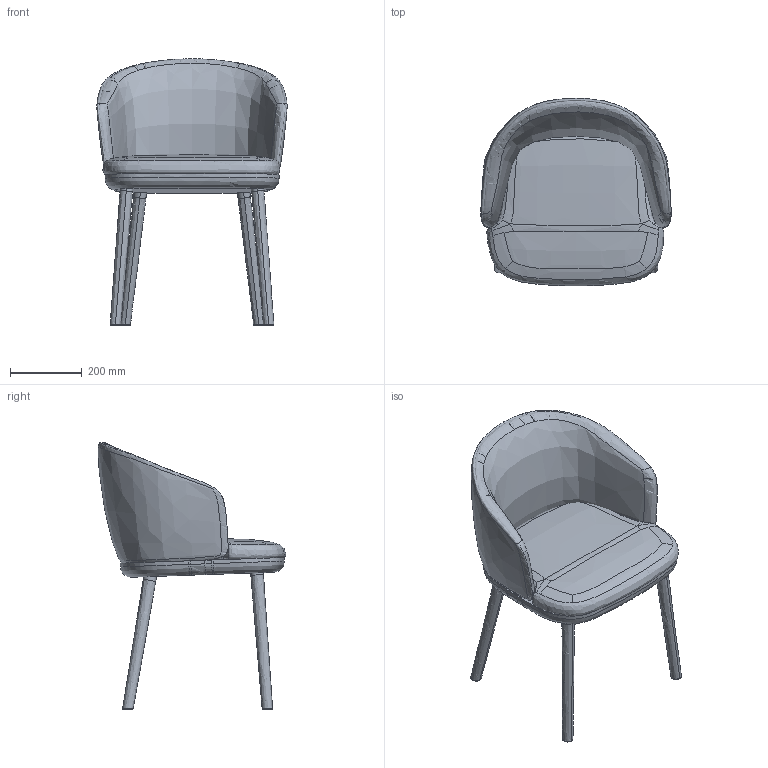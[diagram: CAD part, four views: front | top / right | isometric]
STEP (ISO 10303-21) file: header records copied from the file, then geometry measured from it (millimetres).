
FILE_DESCRIPTION(/* description */ (''),/* implementation_level */ '2;1');
FILE_NAME(/* name */ 'PAD_POLTRONA_ARMCHAIR',/* time_stamp */ '2026-09-23T15:23:29+02:00',/* author */ (''),/* organization */ (''),/* preprocessor_version */ 'ST-DEVELOPER v19.2',/* originating_system */ 'Rhino 8.11',/* authorisation */ '');
FILE_SCHEMA (('CONFIG_CONTROL_DESIGN'));
Length unit declared in the file: millimetre
Products named in the file (1): Document
Bounding box: 529.32 x 522.2 x 741.34 mm (x, y, z)
Volume: 30901047 mm3; surface area: 1556630.4 mm2
Topology: 3 solids, 7 shells, 81 faces, 190 edges, 119 vertices
Faces by surface type: bspline 81
Entity records: 17900 total; most frequent: CARTESIAN_POINT 15294, B_SPLINE_CURVE_WITH_KNOTS 503, ORIENTED_EDGE 368, PCURVE 368, DEFINITIONAL_REPRESENTATION 368, SURFACE_CURVE 190, EDGE_CURVE 190, VERTEX_POINT 119
